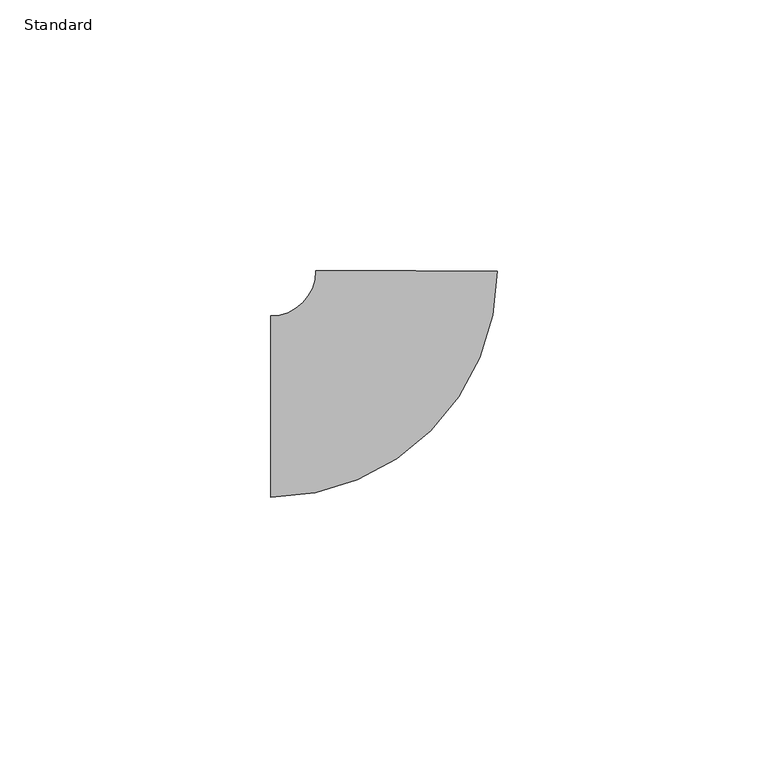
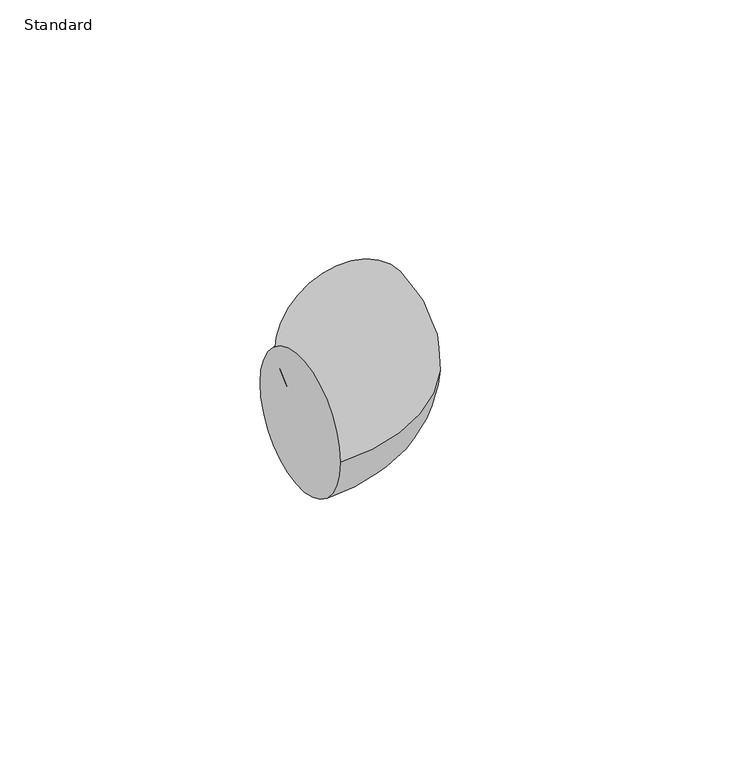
"""IFC4 building model written with IfcOpenShell, lengths in millimetres: pipe fitting geometry, Coude - Générique : Standard."""

from ifc_helpers import new_model, si_unit, point, frame, origin, place, context, project, spatial, circle_curve, ellipse_curve, trimmed, source, transform, mapped, element, save
from ifc_brep_helpers import plane_surface, revolved_surface, advanced_brep


def standard_ea3262f7(model_context):
    return source(origin(), model_context, "Body", "AdvancedBrep", [
        advanced_brep(
        [(-25.0, -16.7, 0.0), (-25.0, 16.7, 0.0), (16.7053162, 24.996448, 0.0), (-16.694683, 25.0035509, 0.0)],
        [
            (0, 1, circle_curve(frame((-25.0, 0.0, 0.0), z_axis=(-1.0, 0.0, 0.0), x_axis=(0.0, 1.0, 0.0)), 16.7)),
            (1, 0, circle_curve(frame((-25.0, 0.0, 0.0), z_axis=(-1.0, 0.0, 0.0), x_axis=(0.0, 1.0, 0.0)), 16.7)),
            (2, 3, circle_curve(frame((0.0053166, 24.9999994, 0.0), z_axis=(0.00021266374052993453, 0.9999999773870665, 0.0), x_axis=(-0.9999999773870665, 0.00021266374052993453, 0.0)), 16.7)),
            (3, 2, circle_curve(frame((0.0053166, 24.9999994, 0.0), z_axis=(0.00021266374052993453, 0.9999999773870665, 0.0), x_axis=(-0.9999999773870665, 0.00021266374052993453, 0.0)), 16.7)),
            (3, 1, circle_curve(frame((-25.0, 25.0053172, 0.0), z_axis=(0.0, 0.0, -1.0), x_axis=(0.0, -1.0, 0.0)), 8.3053172)),
            (0, 2, circle_curve(frame((-25.0, 25.0053172, 0.0), z_axis=(0.0, 0.0, 1.0), x_axis=(0.0, -1.0, 0.0)), 41.7053172)),
        ],
        [
            plane_surface(frame((-25.0, 0.0, 0.0), z_axis=(-1.0, 0.0, 0.0), x_axis=(0.0, 0.0, 1.0))),
            plane_surface(frame((0.0053166, 24.9999994, 0.0), z_axis=(0.00021266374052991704, 0.9999999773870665, 0.0), x_axis=(0.0, 0.0, 1.0))),
            revolved_surface(trimmed(ellipse_curve(frame((-25.0, 0.0, 0.0), z_axis=(-1.0, 0.0, 0.0), x_axis=(0.0, 1.0, 0.0)), 16.7, 16.7), [point((-25.0, -16.7, 0.0))], [point((-25.0, 16.7, 0.0))], True, "CARTESIAN"), (-25.0, 25.0053172, 0.0), (0.0, 0.0, 1.0)),
            revolved_surface(trimmed(ellipse_curve(frame((-25.0, 0.0, 0.0), z_axis=(-1.0, 0.0, 0.0), x_axis=(0.0, 1.0, 0.0)), 16.7, 16.7), [point((-25.0, 16.7, 0.0))], [point((-25.0, -16.7, 0.0))], True, "CARTESIAN"), (-25.0, 25.0053172, 0.0), (0.0, 0.0, 1.0)),
        ],
        [
            (0, [[1, 2]]),
            (1, [[3, 4]]),
            (2, [[5, -1, 6, -4]]),
            (3, [[-6, -2, -5, -3]]),
        ],
    ),
    ])


if __name__ == "__main__":
    model = new_model("IFC4")
    model_context = context("Model", 3, world=origin())
    ifc_project = project(units=[si_unit("LENGTHUNIT", "METRE", prefix="MILLI")], contexts=[model_context])
    site = spatial("IfcSite", under=ifc_project)
    building = spatial("IfcBuilding", under=site)
    placement = place(None, origin())
    standard_shape = standard_ea3262f7(model_context)
    element("IfcPipeFitting", 1, ObjectType="Coude - Générique : Standard", at=placement, inside=building, context=model_context, shape_type="MappedRepresentation", body=[
        mapped(standard_shape, transform((0.0, 0.0, 0.0), x_axis=(1.0, 0.0, 0.0), y_axis=(0.0, 1.0, 0.0), z_axis=(0.0, 0.0, 1.0))),
    ])
    save(model, "model.ifc")
